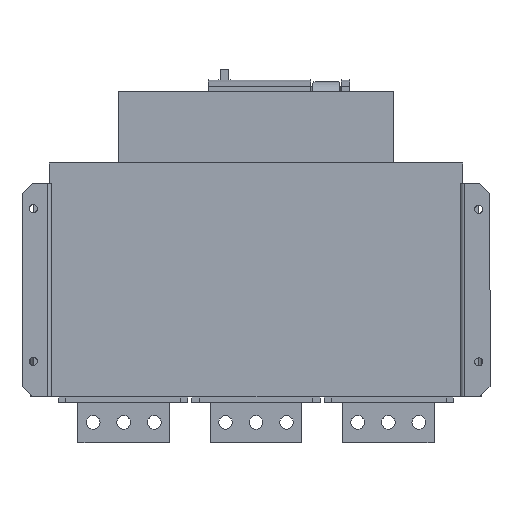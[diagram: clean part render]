
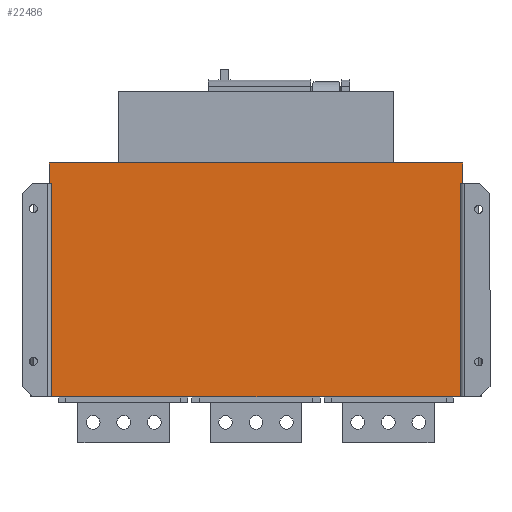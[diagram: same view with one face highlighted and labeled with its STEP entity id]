
A CAD part, front view. The second image highlights one B-rep face of the part: STEP entity #22486.
In plain terms, the highlighted planar face has unit normal (0, -1, 0).
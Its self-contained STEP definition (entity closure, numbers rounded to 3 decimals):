
#3576 = DIRECTION ( 'NONE',  ( 0., 0., 1. ) ) ;
#3577 = VECTOR ( 'NONE', #3576, 1000. ) ;
#3578 = CARTESIAN_POINT ( 'NONE',  ( -195.695, 90.863, -133.5 ) ) ;
#3580 = LINE ( 'NONE', #3578, #3577 ) ;
#3581 = DIRECTION ( 'NONE',  ( -1., 0., 0. ) ) ;
#3582 = VECTOR ( 'NONE', #3581, 1000. ) ;
#3583 = CARTESIAN_POINT ( 'NONE',  ( -195.695, 90.863, 76.5 ) ) ;
#3588 = LINE ( 'NONE', #3583, #3582 ) ;
#3605 = DIRECTION ( 'NONE',  ( 0., 0., 1. ) ) ;
#3606 = VECTOR ( 'NONE', #3605, 1000. ) ;
#3607 = CARTESIAN_POINT ( 'NONE',  ( 206.305, 90.863, -133.5 ) ) ;
#3613 = LINE ( 'NONE', #3607, #3606 ) ;
#3845 = FACE_OUTER_BOUND ( 'NONE', #22487, .T. ) ;
#3877 = CARTESIAN_POINT ( 'NONE',  ( 208.305, 90.863, 76.5 ) ) ;
#3878 = CARTESIAN_POINT ( 'NONE',  ( 206.305, 90.863, 76.5 ) ) ;
#3879 = DIRECTION ( 'NONE',  ( 1., 0., 0. ) ) ;
#3880 = VECTOR ( 'NONE', #3879, 1000. ) ;
#3881 = CARTESIAN_POINT ( 'NONE',  ( 206.305, 90.863, 76.5 ) ) ;
#3882 = LINE ( 'NONE', #3881, #3880 ) ;
#3883 = DIRECTION ( 'NONE',  ( -1., 0., 0. ) ) ;
#3884 = DIRECTION ( 'NONE',  ( 0., 1., 0. ) ) ;
#3885 = CARTESIAN_POINT ( 'NONE',  ( -198.695, 90.863, 96.5 ) ) ;
#3886 = AXIS2_PLACEMENT_3D ( 'NONE', #3885, #3884, #3883 ) ;
#3887 = PLANE ( 'NONE',  #3886 ) ;
#4162 = CARTESIAN_POINT ( 'NONE',  ( 208.305, 90.863, 96.5 ) ) ;
#4163 = DIRECTION ( 'NONE',  ( 0., 0., 1. ) ) ;
#4164 = VECTOR ( 'NONE', #4163, 1000. ) ;
#4165 = CARTESIAN_POINT ( 'NONE',  ( 208.305, 90.863, 96.5 ) ) ;
#4166 = LINE ( 'NONE', #4165, #4164 ) ;
#4185 = CARTESIAN_POINT ( 'NONE',  ( -197.695, 90.863, 96.5 ) ) ;
#4186 = DIRECTION ( 'NONE',  ( 1., 0., 0. ) ) ;
#4187 = VECTOR ( 'NONE', #4186, 1000. ) ;
#4188 = CARTESIAN_POINT ( 'NONE',  ( -198.695, 90.863, 96.5 ) ) ;
#4189 = LINE ( 'NONE', #4188, #4187 ) ;
#4232 = CARTESIAN_POINT ( 'NONE',  ( -195.695, 90.863, 76.5 ) ) ;
#4233 = CARTESIAN_POINT ( 'NONE',  ( -197.695, 90.863, 76.5 ) ) ;
#4234 = DIRECTION ( 'NONE',  ( 0., 0., 1. ) ) ;
#4235 = VECTOR ( 'NONE', #4234, 1000. ) ;
#4236 = CARTESIAN_POINT ( 'NONE',  ( -197.695, 90.863, 96.5 ) ) ;
#4237 = LINE ( 'NONE', #4236, #4235 ) ;
#22385 = EDGE_CURVE ( 'NONE', #22598, #22595, #3588, .T. ) ;
#22388 = ORIENTED_EDGE ( 'NONE', *, *, #22389, .F. ) ;
#22389 = EDGE_CURVE ( 'NONE', #27844, #22598, #3580, .T. ) ;
#22391 = ORIENTED_EDGE ( 'NONE', *, *, #27843, .T. ) ;
#22395 = ORIENTED_EDGE ( 'NONE', *, *, #22396, .T. ) ;
#22396 = EDGE_CURVE ( 'NONE', #27841, #22492, #3613, .T. ) ;
#22486 = ADVANCED_FACE ( 'NONE', ( #3845 ), #3887, .F. ) ;
#22487 = EDGE_LOOP ( 'NONE', ( #22489, #22580, #22586, #22591, #22596, #22388, #22391, #22395 ) ) ;
#22489 = ORIENTED_EDGE ( 'NONE', *, *, #22490, .T. ) ;
#22490 = EDGE_CURVE ( 'NONE', #22492, #22493, #3882, .T. ) ;
#22492 = VERTEX_POINT ( 'NONE', #3878 ) ;
#22493 = VERTEX_POINT ( 'NONE', #3877 ) ;
#22580 = ORIENTED_EDGE ( 'NONE', *, *, #22582, .T. ) ;
#22582 = EDGE_CURVE ( 'NONE', #22493, #22583, #4166, .T. ) ;
#22583 = VERTEX_POINT ( 'NONE', #4162 ) ;
#22586 = ORIENTED_EDGE ( 'NONE', *, *, #22588, .F. ) ;
#22588 = EDGE_CURVE ( 'NONE', #22589, #22583, #4189, .T. ) ;
#22589 = VERTEX_POINT ( 'NONE', #4185 ) ;
#22591 = ORIENTED_EDGE ( 'NONE', *, *, #22594, .F. ) ;
#22594 = EDGE_CURVE ( 'NONE', #22595, #22589, #4237, .T. ) ;
#22595 = VERTEX_POINT ( 'NONE', #4233 ) ;
#22596 = ORIENTED_EDGE ( 'NONE', *, *, #22385, .F. ) ;
#22598 = VERTEX_POINT ( 'NONE', #4232 ) ;
#27841 = VERTEX_POINT ( 'NONE', #46637 ) ;
#27843 = EDGE_CURVE ( 'NONE', #27844, #27841, #46757, .T. ) ;
#27844 = VERTEX_POINT ( 'NONE', #46749 ) ;
#46637 = CARTESIAN_POINT ( 'NONE',  ( 206.305, 90.863, -133.5 ) ) ;
#46749 = CARTESIAN_POINT ( 'NONE',  ( -195.695, 90.863, -133.5 ) ) ;
#46752 = DIRECTION ( 'NONE',  ( 1., 0., 0. ) ) ;
#46753 = VECTOR ( 'NONE', #46752, 1000. ) ;
#46755 = CARTESIAN_POINT ( 'NONE',  ( -198.695, 90.863, -133.5 ) ) ;
#46757 = LINE ( 'NONE', #46755, #46753 ) ;
